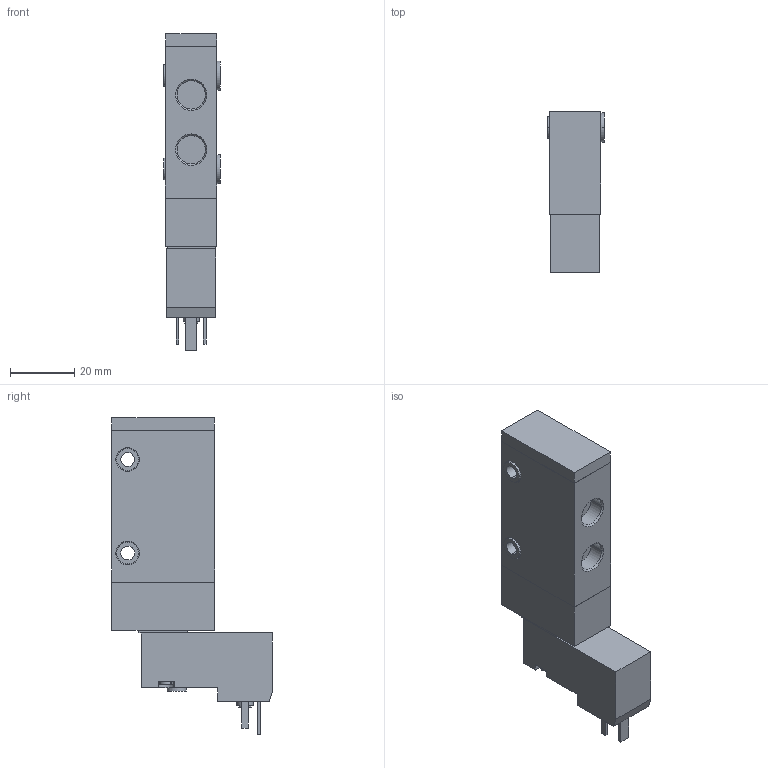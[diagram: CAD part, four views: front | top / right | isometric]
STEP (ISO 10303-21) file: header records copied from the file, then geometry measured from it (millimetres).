
FILE_DESCRIPTION((''),'2;1');
FILE_NAME('0820031061','2018-02-22T',('gio1hc'),(''),'CREO PARAMETRIC BY PTC INC, 2016260','CREO PARAMETRIC BY PTC INC, 2016260','');
FILE_SCHEMA(('CONFIG_CONTROL_DESIGN'));
Length unit declared in the file: millimetre
Products named in the file (1): 0820031061
Bounding box: 17.5 x 49.9 x 98.25 mm (x, y, z)
Volume: 43838.9 mm3; surface area: 13224.7 mm2
Topology: 1 solids, 2 shells, 128 faces, 285 edges, 184 vertices
Faces by surface type: plane 74, cylinder 38, cone 16
Entity records: 3594 total; most frequent: DIRECTION 633, CARTESIAN_POINT 597, ORIENTED_EDGE 570, EDGE_CURVE 285, AXIS2_PLACEMENT_3D 220, VECTOR 193, LINE 193, VERTEX_POINT 184
